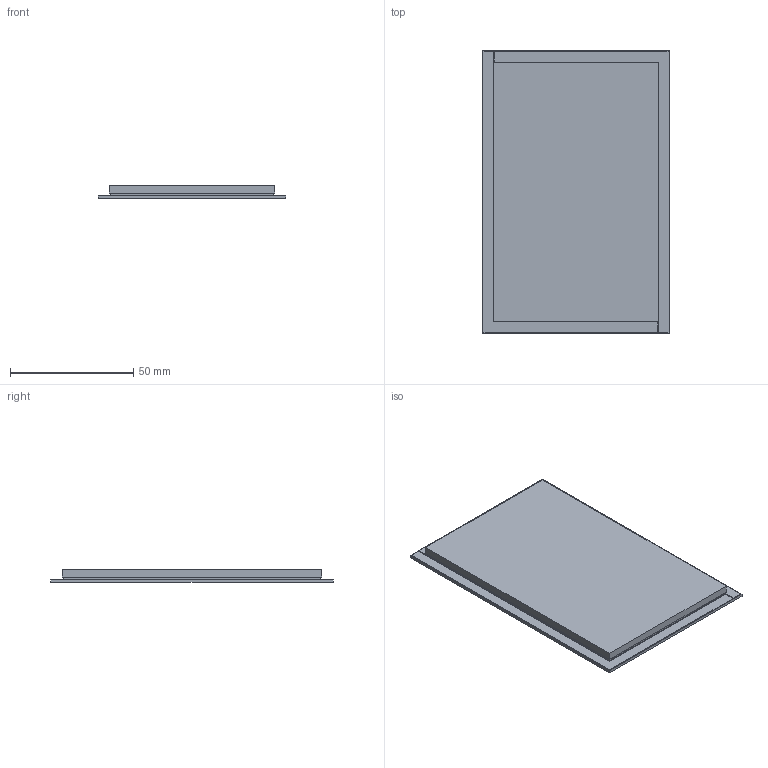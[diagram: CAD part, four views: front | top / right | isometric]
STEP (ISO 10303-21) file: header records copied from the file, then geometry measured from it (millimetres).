
FILE_DESCRIPTION((''),'2;1');
FILE_NAME('3D-DMG48270F043_01WTCZ01','2023-11-09T',('Administrator'),(''),'PRO/ENGINEER BY PARAMETRIC TECHNOLOGY CORPORATION, 2011310','PRO/ENGINEER BY PARAMETRIC TECHNOLOGY CORPORATION, 2011310','');
FILE_SCHEMA(('CONFIG_CONTROL_DESIGN','SHAPE_APPEARANCE_LAYERS_GROUPS'));
Length unit declared in the file: millimetre
Products named in the file (1): 3D-DMG48270F043_01WTCZ01
Bounding box: 76.07 x 114.42 x 5.17 mm (x, y, z)
Volume: 37484.1 mm3; surface area: 30998.8 mm2
Topology: 1 solids, 1 shells, 47 faces, 2321 edges, 2355 vertices
Faces by surface type: plane 47
Entity records: 26768 total; most frequent: PRESENTATION_STYLE_ASSIGNMENT 3153, STYLED_ITEM 3153, CURVE_STYLE 2678, DIRECTION 2534, CARTESIAN_POINT 2452, VECTOR 2210, LINE 2210, TRIMMED_CURVE 2201
